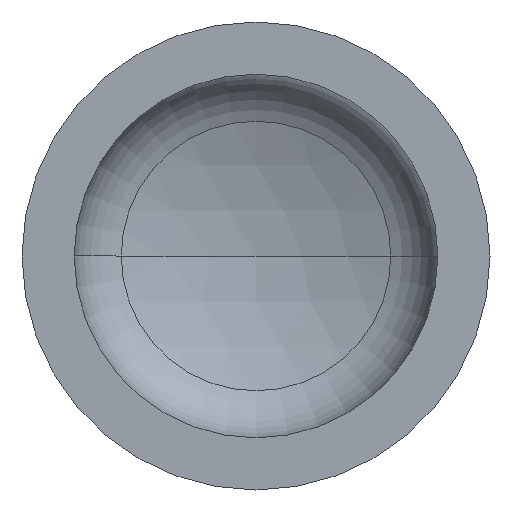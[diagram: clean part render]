
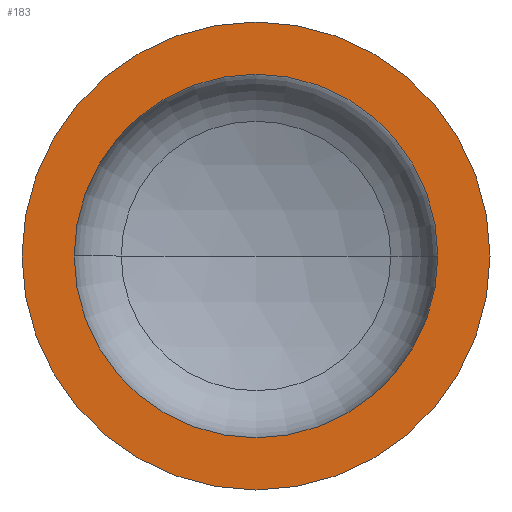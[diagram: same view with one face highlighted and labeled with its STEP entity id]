
A CAD part, front view. The second image highlights one B-rep face of the part: STEP entity #183.
In plain terms, the highlighted planar face has unit normal (0, -1, 0).
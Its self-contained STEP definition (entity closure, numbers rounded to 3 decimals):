
#3 = DIRECTION ( 'NONE',  ( -1., 0., 0. ) ) ;
#12 = EDGE_LOOP ( 'NONE', ( #105, #40 ) ) ;
#13 = CARTESIAN_POINT ( 'NONE',  ( -350., 0., 0. ) ) ;
#40 = ORIENTED_EDGE ( 'NONE', *, *, #88, .T. ) ;
#44 = EDGE_CURVE ( 'NONE', #124, #75, #391, .T. ) ;
#46 = AXIS2_PLACEMENT_3D ( 'NONE', #13, #207, #3 ) ;
#54 = AXIS2_PLACEMENT_3D ( 'NONE', #406, #393, #389 ) ;
#59 = AXIS2_PLACEMENT_3D ( 'NONE', #190, #194, #295 ) ;
#63 = FACE_BOUND ( 'NONE', #65, .T. ) ;
#64 = AXIS2_PLACEMENT_3D ( 'NONE', #369, #306, #300 ) ;
#65 = EDGE_LOOP ( 'NONE', ( #220, #134 ) ) ;
#74 = AXIS2_PLACEMENT_3D ( 'NONE', #231, #229, #241 ) ;
#75 = VERTEX_POINT ( 'NONE', #247 ) ;
#88 = EDGE_CURVE ( 'NONE', #122, #103, #263, .T. ) ;
#95 = EDGE_CURVE ( 'NONE', #75, #124, #193, .T. ) ;
#103 = VERTEX_POINT ( 'NONE', #294 ) ;
#105 = ORIENTED_EDGE ( 'NONE', *, *, #323, .T. ) ;
#122 = VERTEX_POINT ( 'NONE', #188 ) ;
#124 = VERTEX_POINT ( 'NONE', #189 ) ;
#134 = ORIENTED_EDGE ( 'NONE', *, *, #44, .F. ) ;
#183 = ADVANCED_FACE ( 'NONE', ( #63, #253 ), #199, .F. ) ;
#188 = CARTESIAN_POINT ( 'NONE',  ( -350., 0., 0. ) ) ;
#189 = CARTESIAN_POINT ( 'NONE',  ( -272., 0., 0. ) ) ;
#190 = CARTESIAN_POINT ( 'NONE',  ( 0., 0., 0. ) ) ;
#193 = CIRCLE ( 'NONE', #59, 272. ) ;
#194 = DIRECTION ( 'NONE',  ( 0., -1., 0. ) ) ;
#199 = PLANE ( 'NONE',  #46 ) ;
#207 = DIRECTION ( 'NONE',  ( 0., 1., 0. ) ) ;
#220 = ORIENTED_EDGE ( 'NONE', *, *, #95, .F. ) ;
#229 = DIRECTION ( 'NONE',  ( 0., -1., 0. ) ) ;
#231 = CARTESIAN_POINT ( 'NONE',  ( 0., 0., 0. ) ) ;
#241 = DIRECTION ( 'NONE',  ( 1., 0., 0. ) ) ;
#247 = CARTESIAN_POINT ( 'NONE',  ( 272., 0., 0. ) ) ;
#253 = FACE_OUTER_BOUND ( 'NONE', #12, .T. ) ;
#263 = CIRCLE ( 'NONE', #64, 350. ) ;
#290 = CIRCLE ( 'NONE', #54, 350. ) ;
#294 = CARTESIAN_POINT ( 'NONE',  ( 350., 0., 0. ) ) ;
#295 = DIRECTION ( 'NONE',  ( 1., 0., 0. ) ) ;
#300 = DIRECTION ( 'NONE',  ( 1., 0., 0. ) ) ;
#306 = DIRECTION ( 'NONE',  ( 0., -1., 0. ) ) ;
#323 = EDGE_CURVE ( 'NONE', #103, #122, #290, .T. ) ;
#369 = CARTESIAN_POINT ( 'NONE',  ( 0., 0., 0. ) ) ;
#389 = DIRECTION ( 'NONE',  ( 1., 0., 0. ) ) ;
#391 = CIRCLE ( 'NONE', #74, 272. ) ;
#393 = DIRECTION ( 'NONE',  ( 0., -1., 0. ) ) ;
#406 = CARTESIAN_POINT ( 'NONE',  ( 0., 0., 0. ) ) ;
